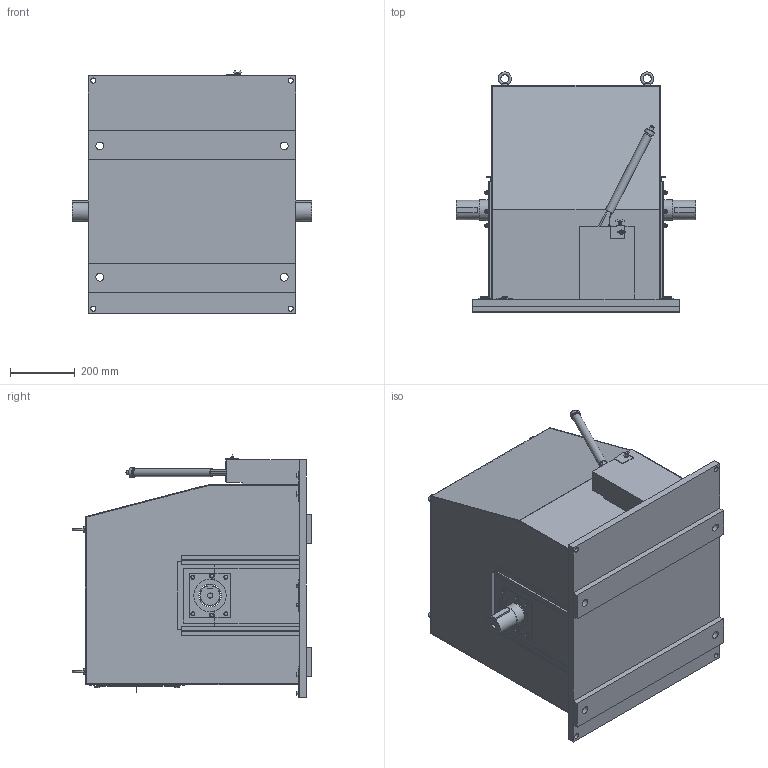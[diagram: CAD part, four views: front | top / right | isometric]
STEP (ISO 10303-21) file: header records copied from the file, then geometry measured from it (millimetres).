
FILE_DESCRIPTION (( 'STEP AP203' ), '1' );
FILE_NAME ('ECE-1515-01_水門用直流電磁ブレーキ.STEP', '2026-03-03T01:57:49', ( '' ), ( '' ), 'SwSTEP 2.0', 'SolidWorks 2025', '' );
FILE_SCHEMA (( 'CONFIG_CONTROL_DESIGN' ));
Length unit declared in the file: millimetre
Products named in the file (1): ECE-1515-01_水門用直流電磁ブレーキ
Bounding box: 740 x 741.48 x 750.9 mm (x, y, z)
Volume: 21087704.7 mm3; surface area: 5062572.9 mm2
Topology: 6 solids, 6 shells, 1061 faces, 2700 edges, 1703 vertices
Faces by surface type: plane 675, cylinder 177, cone 162, torus 21, sphere 20, bspline 6
Full cylindrical faces by diameter (mm): 6 x1, 7 x3, 8.5 x4, 9.5 x1, 10 x16, 13 x18, 16 x5, 18 x7, 24 x9, 25 x1, 25.4 x1, 30 x1, 60 x2, 65 x5, 70 x2
Entity records: 32234 total; most frequent: CARTESIAN_POINT 7498, ORIENTED_EDGE 5138, DIRECTION 4835, EDGE_CURVE 2569, VECTOR 1681, LINE 1681, VERTEX_POINT 1667, AXIS2_PLACEMENT_3D 1577
